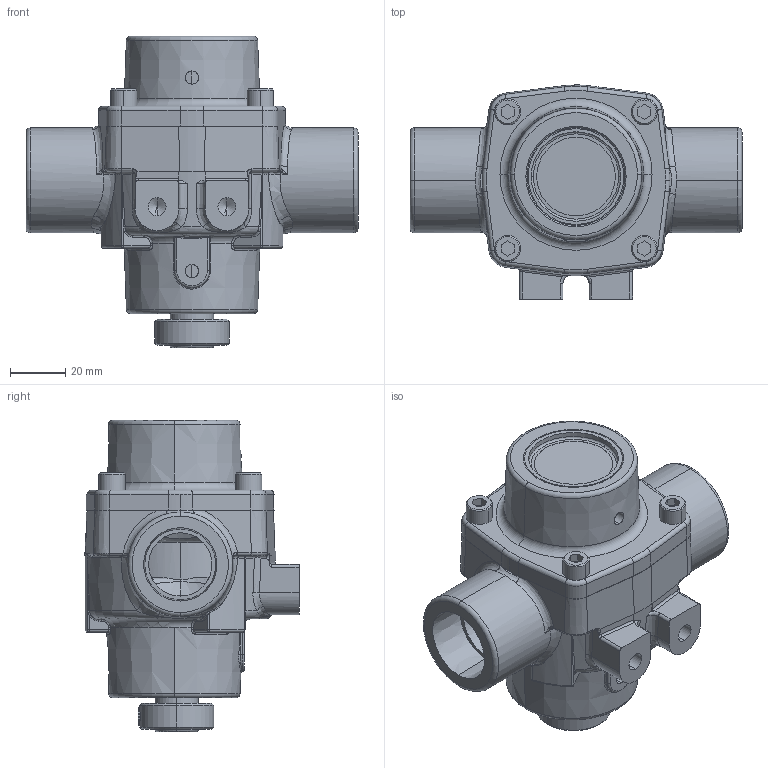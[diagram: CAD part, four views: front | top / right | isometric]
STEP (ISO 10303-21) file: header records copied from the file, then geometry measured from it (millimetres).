
FILE_DESCRIPTION (( 'STEP AP203' ), '1' );
FILE_NAME ('4101C-H.STEP', '2014-04-03T18:31:54', ( '' ), ( '' ), 'SwSTEP 2.0', 'SolidWorks 2012', '' );
FILE_SCHEMA (( 'CONFIG_CONTROL_DESIGN' ));
Length unit declared in the file: inch
Products named in the file (1): 4101C-H
Bounding box: 120.65 x 77.86 x 113.16 mm (x, y, z)
Volume: 324118.7 mm3; surface area: 49140.6 mm2
Topology: 1 solids, 14 shells, 855 faces, 2116 edges, 1283 vertices
Faces by surface type: cylinder 310, bspline 185, plane 155, torus 103, cone 87, sphere 15
Entity records: 51682 total; most frequent: CARTESIAN_POINT 33248, ORIENTED_EDGE 4170, DIRECTION 3407, EDGE_CURVE 2085, AXIS2_PLACEMENT_3D 1407, VERTEX_POINT 1281, EDGE_LOOP 898, FACE_OUTER_BOUND 855
